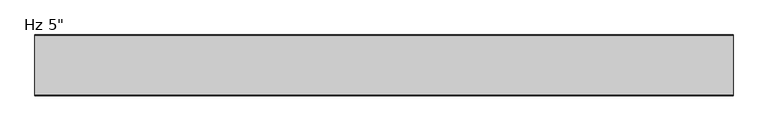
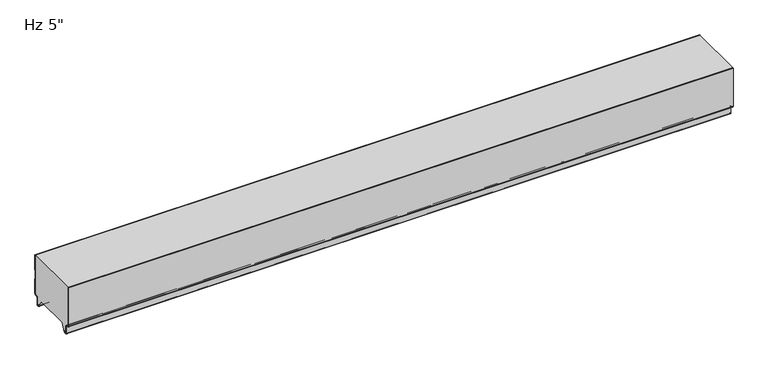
"""IFC4 building model written with IfcOpenShell, lengths in millimetres: plate geometry."""

from ifc_helpers import new_model, si_unit, frame, origin, place, context, project, spatial, polyline, circle_curve, source, transform, mapped, element, save
from ifc_brep_helpers import plane_surface, cylinder_surface, revolved_surface, advanced_brep


def plate_c82851e5(model_context):
    return source(origin(), model_context, "Body", "AdvancedBrep", [
        advanced_brep(
        [(-730.0, -1.0, 59.9218553), (-730.0, -1.0, 94.95), (-730.0, 0.0, 94.95), (-730.0, 0.0, 59.479416), (-730.0, -1.1911595, 58.4068912), (-730.0, -1.1911595, 39.5087751), (-730.0, 0.0, 38.4362503), (-730.0, 0.0, 5.8272193), (-730.0, -2.9772904, 2.8499526), (-730.0, -5.2691742, 2.8499526), (-730.0, -8.2464427, -0.1273159), (-730.0, -8.2464427, -15.7237419), (-730.0, -9.8343193, -17.3116185), (-730.0, -12.905868, -17.3116185), (-730.0, -14.4937445, -15.7237419), (-730.0, -14.4937445, -13.3687064), (-730.0, -13.4937445, -13.3687064), (-730.0, -13.4937445, -15.7237419), (-730.0, -12.905868, -16.3116185), (-730.0, -9.8343193, -16.3116185), (-730.0, -9.2464427, -15.7237419), (-730.0, -9.2464427, -0.1273159), (-730.0, -5.2691742, 3.8499526), (-730.0, -2.9772904, 3.8499526), (-730.0, -1.0000218, 5.82722), (-730.0, -1.0, 37.993811), (-730.0, -2.1911595, 39.0663358), (-730.0, -2.1911595, 58.8493305), (730.0, 0.0, 59.479416), (730.0, 0.0, 94.95), (730.0, -1.0, 94.95), (730.0, -1.0, 59.9218553), (730.0, -2.1911595, 58.8493305), (730.0, -2.1911595, 39.0663358), (730.0, -1.0, 37.993811), (730.0, -1.0, 5.82722), (730.0, -2.9772904, 3.8499526), (730.0, -5.2691742, 3.8499526), (730.0, -9.2464427, -0.1273159), (730.0, -9.2464427, -15.7237419), (730.0, -9.8343193, -16.3116185), (730.0, -12.905868, -16.3116185), (730.0, -13.4937445, -15.7237419), (730.0, -13.4937445, -13.3687064), (730.0, -14.4937445, -13.3687064), (730.0, -14.4937445, -15.7237419), (730.0, -12.905868, -17.3116185), (730.0, -9.8343193, -17.3116185), (730.0, -8.2464427, -15.7237419), (730.0, -8.2464427, -0.1273159), (730.0, -5.2691742, 2.8499526), (730.0, -2.9772904, 2.8499526), (730.0, -2.18e-05, 5.8272193), (730.0, 0.0, 38.4362503), (730.0, -1.1911595, 39.5087751), (730.0, -1.1911595, 58.4068912)],
        [
            (0, 1),
            (1, 2),
            (2, 3),
            (3, 4),
            (4, 5),
            (5, 6),
            (6, 7),
            (7, 8, circle_curve(frame((-730.0, -2.9772904, 5.8272211), z_axis=(-1.0, 0.0, 0.0), x_axis=(0.0, 1.0, 0.0)), 2.9772685)),
            (8, 9),
            (9, 10, circle_curve(frame((-730.0, -5.2691742, -0.1273159), z_axis=(1.0, 0.0, 0.0), x_axis=(0.0, 1.0, 0.0)), 2.9772685)),
            (10, 11),
            (11, 12, circle_curve(frame((-730.0, -9.8343193, -15.7237419), z_axis=(-1.0, 0.0, 0.0), x_axis=(0.0, 1.0, 0.0)), 1.5878765)),
            (12, 13),
            (13, 14, circle_curve(frame((-730.0, -12.905868, -15.7237419), z_axis=(-1.0, 0.0, 0.0), x_axis=(0.0, 1.0, 0.0)), 1.5878765)),
            (14, 15),
            (15, 16),
            (16, 17),
            (17, 18, circle_curve(frame((-730.0, -12.905868, -15.7237419), z_axis=(1.0, 0.0, 0.0), x_axis=(0.0, 1.0, 0.0)), 0.5878765)),
            (18, 19),
            (19, 20, circle_curve(frame((-730.0, -9.8343193, -15.7237419), z_axis=(1.0, 0.0, 0.0), x_axis=(0.0, 1.0, 0.0)), 0.5878765)),
            (20, 21),
            (21, 22, circle_curve(frame((-730.0, -5.2691742, -0.1273159), z_axis=(-1.0, 0.0, 0.0), x_axis=(0.0, 1.0, 0.0)), 3.9772685)),
            (22, 23),
            (23, 24, circle_curve(frame((-730.0, -2.9772904, 5.8272212), z_axis=(1.0, 0.0, 0.0), x_axis=(0.0, 1.0, 0.0)), 1.9772685)),
            (24, 25),
            (25, 26),
            (26, 27),
            (27, 0),
            (28, 29),
            (29, 30),
            (30, 31),
            (31, 32),
            (32, 33),
            (33, 34),
            (34, 35),
            (35, 36, circle_curve(frame((730.0, -2.9772904, 5.8272212), z_axis=(-1.0, 0.0, 0.0), x_axis=(0.0, 1.0, 0.0)), 1.9772685)),
            (36, 37),
            (37, 38, circle_curve(frame((730.0, -5.2691742, -0.1273159), z_axis=(1.0, 0.0, 0.0), x_axis=(0.0, 1.0, 0.0)), 3.9772685)),
            (38, 39),
            (39, 40, circle_curve(frame((730.0, -9.8343193, -15.7237419), z_axis=(-1.0, 0.0, 0.0), x_axis=(0.0, 1.0, 0.0)), 0.5878765)),
            (40, 41),
            (41, 42, circle_curve(frame((730.0, -12.905868, -15.7237419), z_axis=(-1.0, 0.0, 0.0), x_axis=(0.0, 1.0, 0.0)), 0.5878765)),
            (42, 43),
            (43, 44),
            (44, 45),
            (45, 46, circle_curve(frame((730.0, -12.905868, -15.7237419), z_axis=(1.0, 0.0, 0.0), x_axis=(0.0, 1.0, 0.0)), 1.5878765)),
            (46, 47),
            (47, 48, circle_curve(frame((730.0, -9.8343193, -15.7237419), z_axis=(1.0, 0.0, 0.0), x_axis=(0.0, 1.0, 0.0)), 1.5878765)),
            (48, 49),
            (49, 50, circle_curve(frame((730.0, -5.2691742, -0.1273159), z_axis=(-1.0, 0.0, 0.0), x_axis=(0.0, 1.0, 0.0)), 2.9772685)),
            (50, 51),
            (51, 52, circle_curve(frame((730.0, -2.9772904, 5.8272211), z_axis=(1.0, 0.0, 0.0), x_axis=(0.0, 1.0, 0.0)), 2.9772685)),
            (52, 53),
            (53, 54),
            (54, 55),
            (55, 28),
            (30, 1),
            (0, 31),
            (27, 32),
            (26, 33),
            (25, 34),
            (24, 35),
            (23, 36),
            (22, 37),
            (21, 38),
            (20, 39),
            (19, 40),
            (18, 41),
            (17, 42),
            (16, 43),
            (15, 44),
            (14, 45),
            (13, 46),
            (12, 47),
            (11, 48),
            (10, 49),
            (9, 50),
            (8, 51),
            (7, 52),
            (6, 53),
            (5, 54),
            (4, 55),
            (3, 28),
            (2, 29),
        ],
        [
            plane_surface(frame((-730.0, 0.0, 576.2625), z_axis=(-1.0, 0.0, 0.0), x_axis=(0.0, 1.0, 0.0))),
            plane_surface(frame((730.0, 0.0, 576.2625), z_axis=(1.0, 0.0, 0.0), x_axis=(0.0, 1.0, 0.0))),
            plane_surface(frame((-730.0, -1.0, 113.6164312), z_axis=(0.0, -1.0, 0.0), x_axis=(1.0, 0.0, 0.0))),
            plane_surface(frame((-730.0, -1.0, 59.9218553), z_axis=(0.0, -0.6691306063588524, 0.7431448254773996), x_axis=(1.0, 0.0, 0.0))),
            plane_surface(frame((-730.0, -2.1911595, 58.8493305), z_axis=(0.0, -1.0, 0.0), x_axis=(1.0, 0.0, 0.0))),
            plane_surface(frame((-730.0, -2.1911595, 39.0663358), z_axis=(0.0, -0.6691306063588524, -0.7431448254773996), x_axis=(1.0, 0.0, 0.0))),
            plane_surface(frame((-730.0, -1.0, 37.993811), z_axis=(0.0, -1.0, 0.0), x_axis=(1.0, 0.0, 0.0))),
            revolved_surface(polyline([(730.0, -1.0000218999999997, 5.8272212), (-730.0, -1.0000218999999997, 5.8272212)]), (-730.0, -2.9772904, 5.8272212), (1.0, 0.0, 0.0)),
            plane_surface(frame((-730.0, -2.9772904, 3.8499526), z_axis=(0.0, 0.0, 1.0), x_axis=(1.0, 0.0, 0.0))),
            cylinder_surface(frame((-730.0, -5.2691742, -0.1273159), z_axis=(-1.0, 0.0, 0.0), x_axis=(0.0, 1.0, 0.0)), 3.9772685),
            plane_surface(frame((-730.0, -9.2464427, -0.1273159), z_axis=(0.0, -1.0, 0.0), x_axis=(1.0, 0.0, 0.0))),
            revolved_surface(polyline([(730.0, -9.2464428, -15.7237419), (-730.0, -9.2464428, -15.7237419)]), (-730.0, -9.8343193, -15.7237419), (1.0, 0.0, 0.0)),
            plane_surface(frame((-730.0, -9.8343193, -16.3116185), z_axis=(0.0, 0.0, 1.0), x_axis=(1.0, 0.0, 0.0))),
            revolved_surface(polyline([(730.0, -12.3179915, -15.7237419), (-730.0, -12.3179915, -15.7237419)]), (-730.0, -12.905868, -15.7237419), (1.0, 0.0, 0.0)),
            plane_surface(frame((-730.0, -13.4937445, -15.7237419), z_axis=(0.0, 1.0, 0.0), x_axis=(1.0, 0.0, 0.0))),
            plane_surface(frame((-730.0, -13.4937445, -13.3687064), z_axis=(0.0, 0.0, 1.0), x_axis=(1.0, 0.0, 0.0))),
            plane_surface(frame((-730.0, -14.4937445, -13.3687064), z_axis=(0.0, -1.0, 0.0), x_axis=(1.0, 0.0, 0.0))),
            cylinder_surface(frame((-730.0, -12.905868, -15.7237419), z_axis=(-1.0, 0.0, 0.0), x_axis=(0.0, 1.0, 0.0)), 1.5878765),
            plane_surface(frame((-730.0, -12.905868, -17.3116185), z_axis=(0.0, 0.0, -1.0), x_axis=(1.0, 0.0, 0.0))),
            cylinder_surface(frame((-730.0, -9.8343193, -15.7237419), z_axis=(-1.0, 0.0, 0.0), x_axis=(0.0, 1.0, 0.0)), 1.5878765),
            plane_surface(frame((-730.0, -8.2464427, -15.7237419), z_axis=(0.0, 1.0, 0.0), x_axis=(1.0, 0.0, 0.0))),
            revolved_surface(polyline([(730.0, -2.2919057, -0.1273159), (-730.0, -2.2919057, -0.1273159)]), (-730.0, -5.2691742, -0.1273159), (1.0, 0.0, 0.0)),
            plane_surface(frame((-730.0, -5.2691742, 2.8499526), z_axis=(0.0, 0.0, -1.0), x_axis=(1.0, 0.0, 0.0))),
            cylinder_surface(frame((-730.0, -2.9772904, 5.8272211), z_axis=(-1.0, 0.0, 0.0), x_axis=(0.0, 1.0, 0.0)), 2.9772685),
            plane_surface(frame((-730.0, 0.0, 5.8272193), z_axis=(0.0, 1.0, 0.0), x_axis=(1.0, 0.0, 0.0))),
            plane_surface(frame((-730.0, 0.0, 38.4362503), z_axis=(0.0, 0.6691306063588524, 0.7431448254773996), x_axis=(1.0, 0.0, 0.0))),
            plane_surface(frame((-730.0, -1.1911595, 39.5087751), z_axis=(0.0, 1.0, 0.0), x_axis=(1.0, 0.0, 0.0))),
            plane_surface(frame((-730.0, -1.1911595, 58.4068912), z_axis=(0.0, 0.6691306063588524, -0.7431448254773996), x_axis=(1.0, 0.0, 0.0))),
            plane_surface(frame((-730.0, 0.0, 59.479416), z_axis=(0.0, 1.0, 0.0), x_axis=(1.0, 0.0, 0.0))),
            plane_surface(frame((730.0, 10.0, 94.95), z_axis=(0.0, 0.0, 1.0), x_axis=(-1.0, 0.0, 0.0))),
        ],
        [
            (0, [[1, 2, 3, 4, 5, 6, 7, 8, 9, 10, 11, 12, 13, 14, 15, 16, 17, 18, 19, 20, 21, 22, 23, 24, 25, 26, 27, 28]]),
            (1, [[29, 30, 31, 32, 33, 34, 35, 36, 37, 38, 39, 40, 41, 42, 43, 44, 45, 46, 47, 48, 49, 50, 51, 52, 53, 54, 55, 56]]),
            (2, [[-31, 57, -1, 58]]),
            (3, [[59, -32, -58, -28]]),
            (4, [[60, -33, -59, -27]]),
            (5, [[61, -34, -60, -26]]),
            (6, [[62, -35, -61, -25]]),
            (7, [[63, -36, -62, -24]]),
            (8, [[64, -37, -63, -23]]),
            (9, [[65, -38, -64, -22]]),
            (10, [[66, -39, -65, -21]]),
            (11, [[67, -40, -66, -20]]),
            (12, [[68, -41, -67, -19]]),
            (13, [[69, -42, -68, -18]]),
            (14, [[70, -43, -69, -17]]),
            (15, [[71, -44, -70, -16]]),
            (16, [[72, -45, -71, -15]]),
            (17, [[73, -46, -72, -14]]),
            (18, [[74, -47, -73, -13]]),
            (19, [[75, -48, -74, -12]]),
            (20, [[76, -49, -75, -11]]),
            (21, [[77, -50, -76, -10]]),
            (22, [[78, -51, -77, -9]]),
            (23, [[79, -52, -78, -8]]),
            (24, [[80, -53, -79, -7]]),
            (25, [[81, -54, -80, -6]]),
            (26, [[82, -55, -81, -5]]),
            (27, [[83, -56, -82, -4]]),
            (28, [[-3, 84, -29, -83]]),
            (29, [[-57, -30, -84, -2]]),
        ],
    ),
        advanced_brep(
        [(-730.0, -124.0223811, 3.8501063), (-730.0, -121.7308685, 3.8501063), (-730.0, -117.7535232, -0.1272391), (-730.0, -117.7535232, -15.7237514), (-730.0, -117.165666, -16.3116086), (-730.0, -114.0941346, -16.3116086), (-730.0, -113.5062635, -15.7237374), (-730.0, -113.5062635, -13.3687064), (-730.0, -112.5062599, -13.3687064), (-730.0, -112.5062599, -15.7237419), (-730.0, -114.0941364, -17.3116185), (-730.0, -117.1656851, -17.3116185), (-730.0, -118.7535616, -15.7237419), (-730.0, -118.7535616, -0.1273159), (-730.0, -121.7308302, 2.8499526), (-730.0, -124.022714, 2.8499526), (-730.0, -126.9999825, 5.8272211), (-730.0, -127.0, 94.95), (-730.0, -125.9992912, 94.95), (-730.0, -125.9992912, 5.8270163), (730.0, -124.0223811, 3.8501063), (730.0, -125.9992912, 5.8270163), (730.0, -125.9992912, 94.95), (730.0, -127.0, 94.95), (730.0, -127.0, 5.8272211), (730.0, -124.022714, 2.8499526), (730.0, -121.7308302, 2.8499526), (730.0, -118.7535616, -0.1273159), (730.0, -118.7535616, -15.7237419), (730.0, -117.1656851, -17.3116185), (730.0, -114.0941364, -17.3116185), (730.0, -112.5062599, -15.7237419), (730.0, -112.5062599, -13.3687064), (730.0, -113.5062635, -13.3687064), (730.0, -113.5062635, -15.7237374), (730.0, -114.0941346, -16.3116086), (730.0, -117.165666, -16.3116086), (730.0, -117.7535232, -15.7237514), (730.0, -117.7535232, -0.1272391), (730.0, -121.7308685, 3.8501063)],
        [
            (0, 1),
            (1, 2, circle_curve(frame((-730.0, -121.7308685, -0.1272391), z_axis=(-1.0, 0.0, 0.0), x_axis=(0.0, 0.0, -1.0)), 3.9773454)),
            (2, 3),
            (3, 4, circle_curve(frame((-730.0, -117.165666, -15.7237514), z_axis=(1.0, 0.0, 0.0), x_axis=(0.0, 0.0, -1.0)), 0.5878572)),
            (4, 5),
            (5, 6, circle_curve(frame((-730.0, -114.0941346, -15.7237374), z_axis=(1.0, 0.0, 0.0), x_axis=(0.0, 0.0, -1.0)), 0.5878711)),
            (6, 7),
            (7, 8),
            (8, 9),
            (9, 10, circle_curve(frame((-730.0, -114.0941364, -15.7237419), z_axis=(-1.0, 0.0, 0.0), x_axis=(0.0, 0.0, -1.0)), 1.5878765)),
            (10, 11),
            (11, 12, circle_curve(frame((-730.0, -117.1656851, -15.7237419), z_axis=(-1.0, 0.0, 0.0), x_axis=(0.0, 0.0, -1.0)), 1.5878765)),
            (12, 13),
            (13, 14, circle_curve(frame((-730.0, -121.7308302, -0.1273159), z_axis=(1.0, 0.0, 0.0), x_axis=(0.0, 0.0, -1.0)), 2.9772685)),
            (14, 15),
            (15, 16, circle_curve(frame((-730.0, -124.022714, 5.8272211), z_axis=(-1.0, 0.0, 0.0), x_axis=(0.0, 0.0, -1.0)), 2.9772685)),
            (16, 17),
            (17, 18),
            (18, 19),
            (19, 0, circle_curve(frame((-730.0, -124.0223811, 5.8270163), z_axis=(1.0, 0.0, 0.0), x_axis=(0.0, 0.0, -1.0)), 1.9769101)),
            (20, 21, circle_curve(frame((730.0, -124.0223811, 5.8270163), z_axis=(-1.0, 0.0, 0.0), x_axis=(0.0, 0.0, -1.0)), 1.9769101)),
            (21, 22),
            (22, 23),
            (23, 24),
            (24, 25, circle_curve(frame((730.0, -124.022714, 5.8272211), z_axis=(1.0, 0.0, 0.0), x_axis=(0.0, 0.0, -1.0)), 2.9772685)),
            (25, 26),
            (26, 27, circle_curve(frame((730.0, -121.7308302, -0.1273159), z_axis=(-1.0, 0.0, 0.0), x_axis=(0.0, 0.0, -1.0)), 2.9772685)),
            (27, 28),
            (28, 29, circle_curve(frame((730.0, -117.1656851, -15.7237419), z_axis=(1.0, 0.0, 0.0), x_axis=(0.0, 0.0, -1.0)), 1.5878765)),
            (29, 30),
            (30, 31, circle_curve(frame((730.0, -114.0941364, -15.7237419), z_axis=(1.0, 0.0, 0.0), x_axis=(0.0, 0.0, -1.0)), 1.5878765)),
            (31, 32),
            (32, 33),
            (33, 34),
            (34, 35, circle_curve(frame((730.0, -114.0941346, -15.7237374), z_axis=(-1.0, 0.0, 0.0), x_axis=(0.0, 0.0, -1.0)), 0.5878711)),
            (35, 36),
            (36, 37, circle_curve(frame((730.0, -117.165666, -15.7237514), z_axis=(-1.0, 0.0, 0.0), x_axis=(0.0, 0.0, -1.0)), 0.5878572)),
            (37, 38),
            (38, 39, circle_curve(frame((730.0, -121.7308685, -0.1272391), z_axis=(1.0, 0.0, 0.0), x_axis=(0.0, 0.0, -1.0)), 3.9773454)),
            (39, 20),
            (17, 23),
            (22, 18),
            (19, 21),
            (20, 0),
            (16, 24),
            (15, 25),
            (14, 26),
            (13, 27),
            (12, 28),
            (11, 29),
            (10, 30),
            (9, 31),
            (8, 32),
            (7, 33),
            (6, 34),
            (5, 35),
            (4, 36),
            (3, 37),
            (2, 38),
            (1, 39),
        ],
        [
            plane_surface(frame((-730.0, -127.0, 576.2625), z_axis=(-1.0, 0.0, 0.0), x_axis=(0.0, -1.0, 0.0))),
            plane_surface(frame((730.0, -127.0, 576.2625), z_axis=(1.0, 0.0, 0.0), x_axis=(0.0, -1.0, 0.0))),
            plane_surface(frame((730.0, 10.0, 94.95), z_axis=(0.0, 0.0, 1.0), x_axis=(-1.0, 0.0, 0.0))),
            revolved_surface(polyline([(730.0, -124.0223811, 3.8501062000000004), (-730.0, -124.0223811, 3.8501062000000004)]), (-730.0, -124.0223811, 5.8270163), (1.0, 0.0, 0.0)),
            plane_surface(frame((-730.0, -125.9992912, 5.8270163), z_axis=(0.0, 1.0, 0.0), x_axis=(1.0, 0.0, 0.0))),
            plane_surface(frame((-730.0, -127.0, 1150.8100652), z_axis=(0.0, -1.0, 0.0), x_axis=(1.0, 0.0, 0.0))),
            cylinder_surface(frame((-730.0, -124.022714, 5.8272211), z_axis=(-1.0, 0.0, 0.0), x_axis=(0.0, 0.0, -1.0)), 2.9772685),
            plane_surface(frame((-730.0, -124.022714, 2.8499526), z_axis=(0.0, 0.0, -1.0), x_axis=(1.0, 0.0, 0.0))),
            revolved_surface(polyline([(730.0, -121.7308302, -3.1045844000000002), (-730.0, -121.7308302, -3.1045844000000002)]), (-730.0, -121.7308302, -0.1273159), (1.0, 0.0, 0.0)),
            plane_surface(frame((-730.0, -118.7535616, -0.1273159), z_axis=(0.0, -1.0, 0.0), x_axis=(1.0, 0.0, 0.0))),
            cylinder_surface(frame((-730.0, -117.1656851, -15.7237419), z_axis=(-1.0, 0.0, 0.0), x_axis=(0.0, 0.0, -1.0)), 1.5878765),
            plane_surface(frame((-730.0, -117.1656851, -17.3116185), z_axis=(0.0, 0.0, -1.0), x_axis=(1.0, 0.0, 0.0))),
            cylinder_surface(frame((-730.0, -114.0941364, -15.7237419), z_axis=(-1.0, 0.0, 0.0), x_axis=(0.0, 0.0, -1.0)), 1.5878765),
            plane_surface(frame((-730.0, -112.5062599, -15.7237419), z_axis=(0.0, 1.0, 0.0), x_axis=(1.0, 0.0, 0.0))),
            plane_surface(frame((-730.0, -112.5062599, -13.3687064), z_axis=(0.0, 0.0, 1.0), x_axis=(1.0, 0.0, 0.0))),
            plane_surface(frame((-730.0, -113.5062635, -13.3687064), z_axis=(0.0, -1.0, 0.0), x_axis=(1.0, 0.0, 0.0))),
            revolved_surface(polyline([(730.0, -114.0941346, -16.3116085), (-730.0, -114.0941346, -16.3116085)]), (-730.0, -114.0941346, -15.7237374), (1.0, 0.0, 0.0)),
            plane_surface(frame((-730.0, -114.0941346, -16.3116086), z_axis=(0.0, 0.0, 1.0), x_axis=(1.0, 0.0, 0.0))),
            revolved_surface(polyline([(730.0, -117.165666, -16.3116086), (-730.0, -117.165666, -16.3116086)]), (-730.0, -117.165666, -15.7237514), (1.0, 0.0, 0.0)),
            plane_surface(frame((-730.0, -117.7535232, -15.7237514), z_axis=(0.0, 1.0, 0.0), x_axis=(1.0, 0.0, 0.0))),
            cylinder_surface(frame((-730.0, -121.7308685, -0.1272391), z_axis=(-1.0, 0.0, 0.0), x_axis=(0.0, 0.0, -1.0)), 3.9773454),
            plane_surface(frame((-730.0, -121.7308685, 3.8501063), z_axis=(0.0, 0.0, 1.0), x_axis=(1.0, 0.0, 0.0))),
        ],
        [
            (0, [[1, 2, 3, 4, 5, 6, 7, 8, 9, 10, 11, 12, 13, 14, 15, 16, 17, 18, 19, 20]]),
            (1, [[21, 22, 23, 24, 25, 26, 27, 28, 29, 30, 31, 32, 33, 34, 35, 36, 37, 38, 39, 40]]),
            (2, [[41, -23, 42, -18]]),
            (3, [[43, -21, 44, -20]]),
            (4, [[-19, -42, -22, -43]]),
            (5, [[-24, -41, -17, 45]]),
            (6, [[46, -25, -45, -16]]),
            (7, [[47, -26, -46, -15]]),
            (8, [[48, -27, -47, -14]]),
            (9, [[49, -28, -48, -13]]),
            (10, [[50, -29, -49, -12]]),
            (11, [[51, -30, -50, -11]]),
            (12, [[52, -31, -51, -10]]),
            (13, [[53, -32, -52, -9]]),
            (14, [[54, -33, -53, -8]]),
            (15, [[55, -34, -54, -7]]),
            (16, [[56, -35, -55, -6]]),
            (17, [[57, -36, -56, -5]]),
            (18, [[58, -37, -57, -4]]),
            (19, [[59, -38, -58, -3]]),
            (20, [[60, -39, -59, -2]]),
            (21, [[-44, -40, -60, -1]]),
        ],
    ),
        advanced_brep(
        [(-730.0, -124.0227194, 3.8499499), (-730.0, -125.9999935, 5.8272239), (-730.0, -126.0, 94.95), (-730.0, -1.0, 94.95), (-730.0, -1.0, 59.9218553), (-730.0, -2.1911595, 58.8493305), (-730.0, -2.1911595, 39.0663358), (-730.0, -1.0000109, 37.993811), (-730.0, -1.0000109, 5.8272239), (-730.0, -2.9772849, 3.8499499), (-730.0, -5.2691749, 3.8499499), (-730.0, -9.246442, -0.1273173), (-730.0, -9.246442, -15.7237417), (-730.0, -9.8343189, -16.3116186), (-730.0, -12.9058679, -16.3116186), (-730.0, -13.4937446, -15.723742), (-730.0, -13.4937446, -13.3687064), (-730.0, -14.4937446, -13.3687064), (-730.0, -14.4937446, -15.6582851), (-730.0, -23.7509179, 0.0), (-730.0, -103.2490865, 0.0), (-730.0, -112.5062598, -15.6582851), (-730.0, -112.5062598, -13.3687064), (-730.0, -113.5062598, -13.3687064), (-730.0, -113.5062598, -15.723742), (-730.0, -114.0941365, -16.3116186), (-730.0, -117.1656854, -16.3116186), (-730.0, -117.7535623, -15.7237417), (-730.0, -117.7535623, -0.1273173), (-730.0, -121.7308295, 3.8499499), (730.0, -124.0227194, 3.8499499), (730.0, -121.7308295, 3.8499499), (730.0, -117.7535623, -0.1273173), (730.0, -117.7535623, -15.7237417), (730.0, -117.1656854, -16.3116186), (730.0, -114.0941365, -16.3116186), (730.0, -113.5062598, -15.723742), (730.0, -113.5062598, -13.3687064), (730.0, -112.5062598, -13.3687064), (730.0, -112.5062598, -15.6582851), (730.0, -103.2490865, 0.0), (730.0, -23.7509179, 0.0), (730.0, -14.4937446, -15.6582851), (730.0, -14.4937446, -13.3687064), (730.0, -13.4937446, -13.3687064), (730.0, -13.4937446, -15.723742), (730.0, -12.9058679, -16.3116186), (730.0, -9.8343189, -16.3116186), (730.0, -9.246442, -15.7237417), (730.0, -9.246442, -0.1273173), (730.0, -5.2691749, 3.8499499), (730.0, -2.9772849, 3.8499499), (730.0, -1.0000109, 5.8272239), (730.0, -1.0000109, 37.993811), (730.0, -2.1911595, 39.0663358), (730.0, -2.1911595, 58.8493305), (730.0, -1.0, 59.9218553), (730.0, -1.0, 94.95), (730.0, -126.0, 94.95), (730.0, -126.0, 5.8272239)],
        [
            (0, 1, circle_curve(frame((-730.0, -124.0227194, 5.8272239), z_axis=(-1.0, 0.0, 0.0), x_axis=(0.0, 0.0, -1.0)), 1.977274)),
            (1, 2),
            (2, 3),
            (3, 4),
            (4, 5),
            (5, 6),
            (6, 7),
            (7, 8),
            (8, 9, circle_curve(frame((-730.0, -2.9772849, 5.8272239), z_axis=(-1.0, 0.0, 0.0), x_axis=(0.0, 1.0, 0.0)), 1.977274)),
            (9, 10),
            (10, 11, circle_curve(frame((-730.0, -5.2691749, -0.1273173), z_axis=(1.0, 0.0, 0.0), x_axis=(0.0, 1.0, 0.0)), 3.9772671)),
            (11, 12),
            (12, 13, circle_curve(frame((-730.0, -9.8343189, -15.7237417), z_axis=(-1.0, 0.0, 0.0), x_axis=(0.0, 1.0, 0.0)), 0.5878769)),
            (13, 14),
            (14, 15, circle_curve(frame((-730.0, -12.9058679, -15.723742), z_axis=(-1.0, 0.0, 0.0), x_axis=(0.0, 1.0, 0.0)), 0.5878766)),
            (15, 16),
            (16, 17),
            (17, 18),
            (18, 19),
            (19, 20),
            (20, 21),
            (21, 22),
            (22, 23),
            (23, 24),
            (24, 25, circle_curve(frame((-730.0, -114.0941365, -15.723742), z_axis=(-1.0, 0.0, 0.0), x_axis=(0.0, 0.0, -1.0)), 0.5878766)),
            (25, 26),
            (26, 27, circle_curve(frame((-730.0, -117.1656854, -15.7237417), z_axis=(-1.0, 0.0, 0.0), x_axis=(0.0, 0.0, -1.0)), 0.5878769)),
            (27, 28),
            (28, 29, circle_curve(frame((-730.0, -121.7308295, -0.1273173), z_axis=(1.0, 0.0, 0.0), x_axis=(0.0, 0.0, -1.0)), 3.9772671)),
            (29, 0),
            (30, 31),
            (31, 32, circle_curve(frame((730.0, -121.7308295, -0.1273173), z_axis=(-1.0, 0.0, 0.0), x_axis=(0.0, 0.0, -1.0)), 3.9772671)),
            (32, 33),
            (33, 34, circle_curve(frame((730.0, -117.1656854, -15.7237417), z_axis=(1.0, 0.0, 0.0), x_axis=(0.0, 0.0, -1.0)), 0.5878769)),
            (34, 35),
            (35, 36, circle_curve(frame((730.0, -114.0941365, -15.723742), z_axis=(1.0, 0.0, 0.0), x_axis=(0.0, 0.0, -1.0)), 0.5878766)),
            (36, 37),
            (37, 38),
            (38, 39),
            (39, 40),
            (40, 41),
            (41, 42),
            (42, 43),
            (43, 44),
            (44, 45),
            (45, 46, circle_curve(frame((730.0, -12.9058679, -15.723742), z_axis=(1.0, 0.0, 0.0), x_axis=(0.0, 1.0, 0.0)), 0.5878766)),
            (46, 47),
            (47, 48, circle_curve(frame((730.0, -9.8343189, -15.7237417), z_axis=(1.0, 0.0, 0.0), x_axis=(0.0, 1.0, 0.0)), 0.5878769)),
            (48, 49),
            (49, 50, circle_curve(frame((730.0, -5.2691749, -0.1273173), z_axis=(-1.0, 0.0, 0.0), x_axis=(0.0, 1.0, 0.0)), 3.9772671)),
            (50, 51),
            (51, 52, circle_curve(frame((730.0, -2.9772849, 5.8272239), z_axis=(1.0, 0.0, 0.0), x_axis=(0.0, 1.0, 0.0)), 1.977274)),
            (52, 53),
            (53, 54),
            (54, 55),
            (55, 56),
            (56, 57),
            (57, 58),
            (58, 59),
            (59, 30, circle_curve(frame((730.0, -124.0227194, 5.8272239), z_axis=(1.0, 0.0, 0.0), x_axis=(0.0, 0.0, -1.0)), 1.977274)),
            (18, 42),
            (41, 19),
            (17, 43),
            (16, 44),
            (15, 45),
            (14, 46),
            (13, 47),
            (12, 48),
            (11, 49),
            (10, 50),
            (9, 51),
            (8, 52),
            (7, 53),
            (6, 54),
            (5, 55),
            (4, 56),
            (3, 57),
            (40, 20),
            (2, 58),
            (29, 31),
            (30, 0),
            (28, 32),
            (27, 33),
            (26, 34),
            (25, 35),
            (24, 36),
            (23, 37),
            (22, 38),
            (21, 39),
            (1, 59),
        ],
        [
            plane_surface(frame((-730.0, -126.0, 576.2625), z_axis=(-1.0, 0.0, 0.0), x_axis=(0.0, -1.0, 0.0))),
            plane_surface(frame((730.0, -126.0, 576.2625), z_axis=(1.0, 0.0, 0.0), x_axis=(0.0, -1.0, 0.0))),
            plane_surface(frame((-730.0, -23.7509179, 0.0), z_axis=(0.0, -0.8608169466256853, -0.5089147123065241), x_axis=(1.0, 0.0, 0.0))),
            plane_surface(frame((-730.0, -14.4937446, -15.6582851), z_axis=(0.0, 1.0, 0.0), x_axis=(1.0, 0.0, 0.0))),
            plane_surface(frame((-730.0, -14.4937446, -13.3687064), z_axis=(0.0, 0.0, -1.0), x_axis=(1.0, 0.0, 0.0))),
            plane_surface(frame((-730.0, -13.4937446, -13.3687064), z_axis=(0.0, -1.0, 0.0), x_axis=(1.0, 0.0, 0.0))),
            cylinder_surface(frame((-730.0, -12.9058679, -15.723742), z_axis=(-1.0, 0.0, 0.0), x_axis=(0.0, 1.0, 0.0)), 0.5878766),
            plane_surface(frame((-730.0, -12.9058679, -16.3116186), z_axis=(0.0, 0.0, -1.0), x_axis=(1.0, 0.0, 0.0))),
            cylinder_surface(frame((-730.0, -9.8343189, -15.7237417), z_axis=(-1.0, 0.0, 0.0), x_axis=(0.0, 1.0, 0.0)), 0.5878769),
            plane_surface(frame((-730.0, -9.246442, -15.7237417), z_axis=(0.0, 1.0, 0.0), x_axis=(1.0, 0.0, 0.0))),
            revolved_surface(polyline([(730.0, -1.2919078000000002, -0.1273173), (-730.0, -1.2919078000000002, -0.1273173)]), (-730.0, -5.2691749, -0.1273173), (1.0, 0.0, 0.0)),
            plane_surface(frame((-730.0, -5.2691749, 3.8499499), z_axis=(0.0, 0.0, -1.0), x_axis=(1.0, 0.0, 0.0))),
            cylinder_surface(frame((-730.0, -2.9772849, 5.8272239), z_axis=(-1.0, 0.0, 0.0), x_axis=(0.0, 1.0, 0.0)), 1.977274),
            plane_surface(frame((-730.0, -1.0000109, 5.8272239), z_axis=(0.0, 1.0, 0.0), x_axis=(1.0, 0.0, 0.0))),
            plane_surface(frame((-730.0, -1.0000109, 37.993811), z_axis=(0.0, 0.6691339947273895, 0.7431417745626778), x_axis=(1.0, 0.0, 0.0))),
            plane_surface(frame((-730.0, -2.1911595, 39.0663358), z_axis=(0.0, 1.0, 0.0), x_axis=(1.0, 0.0, 0.0))),
            plane_surface(frame((-730.0, -2.1911595, 58.8493305), z_axis=(0.0, 0.6691306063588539, -0.7431448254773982), x_axis=(1.0, 0.0, 0.0))),
            plane_surface(frame((-730.0, -1.0, 59.9218553), z_axis=(0.0, 1.0, 0.0), x_axis=(1.0, 0.0, 0.0))),
            plane_surface(frame((-730.0, -103.2490865, 0.0), z_axis=(0.0, 0.0, -1.0), x_axis=(1.0, 0.0, 0.0))),
            plane_surface(frame((730.0, 10.0, 94.95), z_axis=(0.0, 0.0, 1.0), x_axis=(-1.0, 0.0, 0.0))),
            plane_surface(frame((-730.0, -124.0227194, 3.8499499), z_axis=(0.0, 0.0, -1.0), x_axis=(1.0, 0.0, 0.0))),
            revolved_surface(polyline([(730.0, -121.7308295, -4.1045844), (-730.0, -121.7308295, -4.1045844)]), (-730.0, -121.7308295, -0.1273173), (1.0, 0.0, 0.0)),
            plane_surface(frame((-730.0, -117.7535623, -0.1273173), z_axis=(0.0, -1.0, 0.0), x_axis=(1.0, 0.0, 0.0))),
            cylinder_surface(frame((-730.0, -117.1656854, -15.7237417), z_axis=(-1.0, 0.0, 0.0), x_axis=(0.0, 0.0, -1.0)), 0.5878769),
            plane_surface(frame((-730.0, -117.1656854, -16.3116186), z_axis=(0.0, 0.0, -1.0), x_axis=(1.0, 0.0, 0.0))),
            cylinder_surface(frame((-730.0, -114.0941365, -15.723742), z_axis=(-1.0, 0.0, 0.0), x_axis=(0.0, 0.0, -1.0)), 0.5878766),
            plane_surface(frame((-730.0, -113.5062598, -15.723742), z_axis=(0.0, 1.0, 0.0), x_axis=(1.0, 0.0, 0.0))),
            plane_surface(frame((-730.0, -113.5062598, -13.3687064), z_axis=(0.0, 0.0, -1.0), x_axis=(1.0, 0.0, 0.0))),
            plane_surface(frame((-730.0, -112.5062598, -13.3687064), z_axis=(0.0, -1.0, 0.0), x_axis=(1.0, 0.0, 0.0))),
            plane_surface(frame((-730.0, -112.5062598, -15.6582851), z_axis=(0.0, 0.8608169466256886, -0.5089147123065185), x_axis=(1.0, 0.0, 0.0))),
            plane_surface(frame((-730.0, -126.0, 1150.8100652), z_axis=(0.0, -1.0, 0.0), x_axis=(1.0, 0.0, 0.0))),
            cylinder_surface(frame((-730.0, -124.0227194, 5.8272239), z_axis=(-1.0, 0.0, 0.0), x_axis=(0.0, 0.0, -1.0)), 1.977274),
        ],
        [
            (0, [[1, 2, 3, 4, 5, 6, 7, 8, 9, 10, 11, 12, 13, 14, 15, 16, 17, 18, 19, 20, 21, 22, 23, 24, 25, 26, 27, 28, 29, 30]]),
            (1, [[31, 32, 33, 34, 35, 36, 37, 38, 39, 40, 41, 42, 43, 44, 45, 46, 47, 48, 49, 50, 51, 52, 53, 54, 55, 56, 57, 58, 59, 60]]),
            (2, [[61, -42, 62, -19]]),
            (3, [[63, -43, -61, -18]]),
            (4, [[64, -44, -63, -17]]),
            (5, [[65, -45, -64, -16]]),
            (6, [[66, -46, -65, -15]]),
            (7, [[67, -47, -66, -14]]),
            (8, [[68, -48, -67, -13]]),
            (9, [[69, -49, -68, -12]]),
            (10, [[70, -50, -69, -11]]),
            (11, [[71, -51, -70, -10]]),
            (12, [[72, -52, -71, -9]]),
            (13, [[73, -53, -72, -8]]),
            (14, [[74, -54, -73, -7]]),
            (15, [[75, -55, -74, -6]]),
            (16, [[76, -56, -75, -5]]),
            (17, [[-4, 77, -57, -76]]),
            (18, [[78, -20, -62, -41]]),
            (19, [[79, -58, -77, -3]]),
            (20, [[80, -31, 81, -30]]),
            (21, [[82, -32, -80, -29]]),
            (22, [[83, -33, -82, -28]]),
            (23, [[84, -34, -83, -27]]),
            (24, [[85, -35, -84, -26]]),
            (25, [[86, -36, -85, -25]]),
            (26, [[87, -37, -86, -24]]),
            (27, [[88, -38, -87, -23]]),
            (28, [[89, -39, -88, -22]]),
            (29, [[-78, -40, -89, -21]]),
            (30, [[-59, -79, -2, 90]]),
            (31, [[-81, -60, -90, -1]]),
        ],
    ),
    ])


if __name__ == "__main__":
    model = new_model("IFC4")
    model_context = context("Model", 3, world=origin())
    ifc_project = project(units=[si_unit("LENGTHUNIT", "METRE", prefix="MILLI")], contexts=[model_context])
    site = spatial("IfcSite", under=ifc_project)
    building = spatial("IfcBuilding", under=site)
    placement = place(None, origin())
    plate_shape = plate_c82851e5(model_context)
    element("IfcPlate", 1, ObjectType="KIP-SLI-FLI-R19-CP-Hz-FL_SL : Hz 5\"", at=placement, inside=building, context=model_context, shape_type="MappedRepresentation", body=[
        mapped(plate_shape, transform((0.0, 0.0, 0.0), x_axis=(1.0, 0.0, 0.0), y_axis=(0.0, 1.0, 0.0), z_axis=(0.0, 0.0, 1.0))),
    ])
    save(model, "model.ifc")
